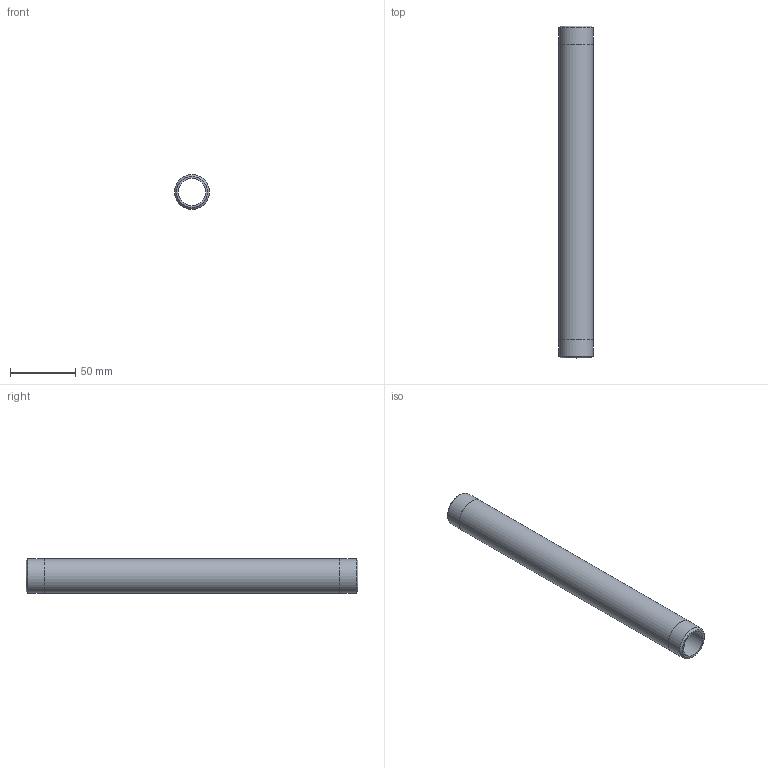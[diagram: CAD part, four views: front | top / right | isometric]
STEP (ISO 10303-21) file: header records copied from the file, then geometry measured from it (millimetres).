
FILE_DESCRIPTION(/* description */ (''),/* implementation_level */ '2;1');
FILE_NAME(/* name */ 'C:/Users/drich/Desktop/BPN34-10 v1.step',/* time_stamp */ '2020-01-03T15:18:51-06:00',/* author */ (''),/* organization */ (''),/* preprocessor_version */ 'ST-DEVELOPER v18',/* originating_system */ 'Autodesk Translation Framework v8.12.0.6',/* authorisation */ '');
FILE_SCHEMA (('AUTOMOTIVE_DESIGN { 1 0 10303 214 3 1 1 }'));
Length unit declared in the file: inch
Products named in the file (1): BPN34-10
Bounding box: 26.67 x 254 x 26.67 mm (x, y, z)
Volume: 54292.7 mm3; surface area: 38265.6 mm2
Topology: 1 solids, 1 shells, 10 faces, 24 edges, 18 vertices
Faces by surface type: cylinder 4, plane 4, cone 2
Full cylindrical faces by diameter (mm): 20.93 x1, 26.619 x2, 26.67 x1
Entity records: 360 total; most frequent: DIRECTION 64, CARTESIAN_POINT 53, ORIENTED_EDGE 48, AXIS2_PLACEMENT_3D 29, EDGE_CURVE 24, CIRCLE 18, VERTEX_POINT 18, EDGE_LOOP 14
